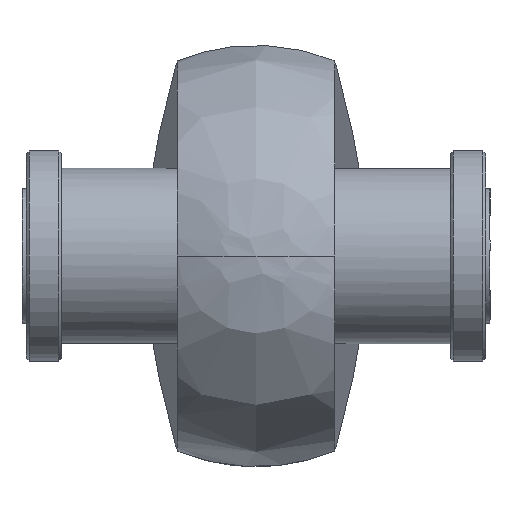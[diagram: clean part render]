
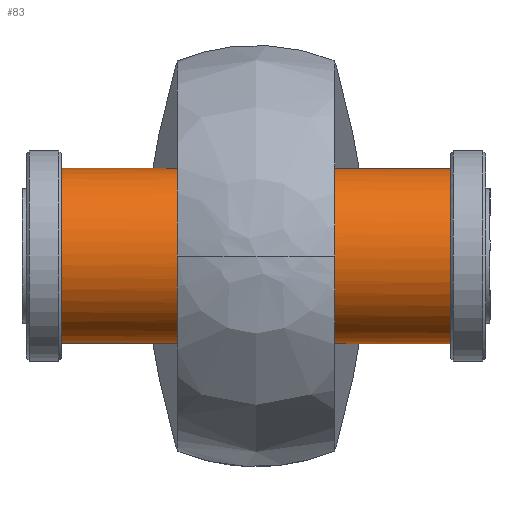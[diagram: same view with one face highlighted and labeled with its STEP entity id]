
A CAD part, left-side view. The second image highlights one B-rep face of the part: STEP entity #83.
In plain terms, the highlighted cylindrical face has radius 15 mm (diameter 30 mm), a full revolution.
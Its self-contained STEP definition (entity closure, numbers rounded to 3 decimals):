
#83=ADVANCED_FACE('',(#157),#1214,.T.);
#157=FACE_OUTER_BOUND('',#238,.T.);
#238=EDGE_LOOP('',(#506,#507,#508,#509));
#506=ORIENTED_EDGE('',*,*,#774,.T.);
#507=ORIENTED_EDGE('',*,*,#776,.T.);
#508=ORIENTED_EDGE('',*,*,#775,.T.);
#509=ORIENTED_EDGE('',*,*,#776,.F.);
#774=EDGE_CURVE('',#1128,#1128,#983,.T.);
#775=EDGE_CURVE('',#1129,#1129,#984,.T.);
#776=EDGE_CURVE('',#1128,#1129,#897,.T.);
#897=B_SPLINE_CURVE_WITH_KNOTS('',1,(#2248,#2249),.UNSPECIFIED.,.F.,.F.,
(2,2),(6.77,73.268),.UNSPECIFIED.);
#983=(
BOUNDED_CURVE()
B_SPLINE_CURVE(2,(#2230,#2231,#2232,#2233,#2234,#2235,#2236,#2237,#2238),
 .UNSPECIFIED.,.T.,.F.)
B_SPLINE_CURVE_WITH_KNOTS((3,2,2,2,3),(0.,23.562,47.124,
70.686,94.248),.UNSPECIFIED.)
CURVE()
GEOMETRIC_REPRESENTATION_ITEM()
RATIONAL_B_SPLINE_CURVE((1.,0.707,1.,0.707,1.,0.707,
1.,0.707,1.))
REPRESENTATION_ITEM('')
);
#984=(
BOUNDED_CURVE()
B_SPLINE_CURVE(2,(#2239,#2240,#2241,#2242,#2243,#2244,#2245,#2246,#2247),
 .UNSPECIFIED.,.T.,.F.)
B_SPLINE_CURVE_WITH_KNOTS((3,2,2,2,3),(0.,23.562,47.124,
70.686,94.248),.UNSPECIFIED.)
CURVE()
GEOMETRIC_REPRESENTATION_ITEM()
RATIONAL_B_SPLINE_CURVE((1.,0.707,1.,0.707,1.,0.707,
1.,0.707,1.))
REPRESENTATION_ITEM('')
);
#1128=VERTEX_POINT('',#2182);
#1129=VERTEX_POINT('',#2183);
#1214=CYLINDRICAL_SURFACE('',#1366,15.);
#1366=AXIS2_PLACEMENT_3D('',#2172,#1412,$);
#1412=DIRECTION('',(0.,-1.,0.));
#2172=CARTESIAN_POINT('',(0.,0.,0.));
#2182=CARTESIAN_POINT('',(15.,33.249,0.));
#2183=CARTESIAN_POINT('',(15.,-33.249,0.));
#2230=CARTESIAN_POINT('',(15.,33.249,0.));
#2231=CARTESIAN_POINT('',(15.,33.249,15.));
#2232=CARTESIAN_POINT('',(0.,33.249,15.));
#2233=CARTESIAN_POINT('',(-15.,33.249,15.));
#2234=CARTESIAN_POINT('',(-15.,33.249,0.));
#2235=CARTESIAN_POINT('',(-15.,33.249,-15.));
#2236=CARTESIAN_POINT('',(0.,33.249,-15.));
#2237=CARTESIAN_POINT('',(15.,33.249,-15.));
#2238=CARTESIAN_POINT('',(15.,33.249,0.));
#2239=CARTESIAN_POINT('',(15.,-33.249,0.));
#2240=CARTESIAN_POINT('',(15.,-33.249,-15.));
#2241=CARTESIAN_POINT('',(0.,-33.249,-15.));
#2242=CARTESIAN_POINT('',(-15.,-33.249,-15.));
#2243=CARTESIAN_POINT('',(-15.,-33.249,0.));
#2244=CARTESIAN_POINT('',(-15.,-33.249,15.));
#2245=CARTESIAN_POINT('',(0.,-33.249,15.));
#2246=CARTESIAN_POINT('',(15.,-33.249,15.));
#2247=CARTESIAN_POINT('',(15.,-33.249,0.));
#2248=CARTESIAN_POINT('',(15.,33.249,0.));
#2249=CARTESIAN_POINT('',(15.,-33.249,0.));
